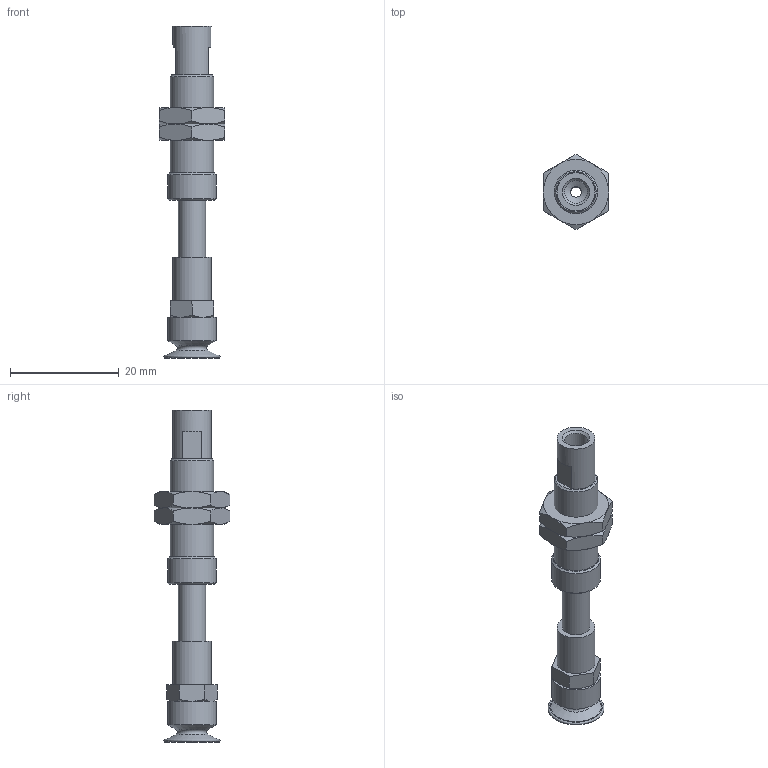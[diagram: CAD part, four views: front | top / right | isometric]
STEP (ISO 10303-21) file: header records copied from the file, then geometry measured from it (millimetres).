
FILE_DESCRIPTION(('STEP AP203'),'1');
FILE_NAME('-PE.stp','2025-04-01T05:13:21',(' '),(' '),'Spatial InterOp 3D',' ',' ');
FILE_SCHEMA(('CONFIG_CONTROL_DESIGN'));
Length unit declared in the file: millimetre
Products named in the file (8): BNABPATS-10B-10-※-PE; ZIG; BODY; NUT; TN-PS-10-M5; Setting screws-TN-PS-10-M5; BPAG-10B-※
Assembly tree (7 placements, depth 3):
  BNABPATS-10B-10-※-PE
    ZIG
    BODY
    NUT
    NUT
    TN-PS-10-M5
      Setting screws-TN-PS-10-M5
    BPAG-10B-※
Bounding box: 12 x 13.86 x 61 mm (x, y, z)
Volume: 2731.2 mm3; surface area: 4021.2 mm2
Topology: 6 solids, 6 shells, 171 faces, 384 edges, 237 vertices
Faces by surface type: plane 82, cone 47, cylinder 32, torus 10
Full cylindrical faces by diameter (mm): 2 x3, 3.9 x1, 4 x4, 4.2 x2, 5 x3, 5.2 x1, 6 x2, 7 x3, 7.25 x2, 8 x1, 9 x2
Entity records: 4856 total; most frequent: CARTESIAN_POINT 910, DIRECTION 762, ORIENTED_EDGE 642, AXIS2_PLACEMENT_3D 321, EDGE_CURVE 321, EDGE_LOOP 246, VERTEX_POINT 225, FACE_OUTER_BOUND 205
